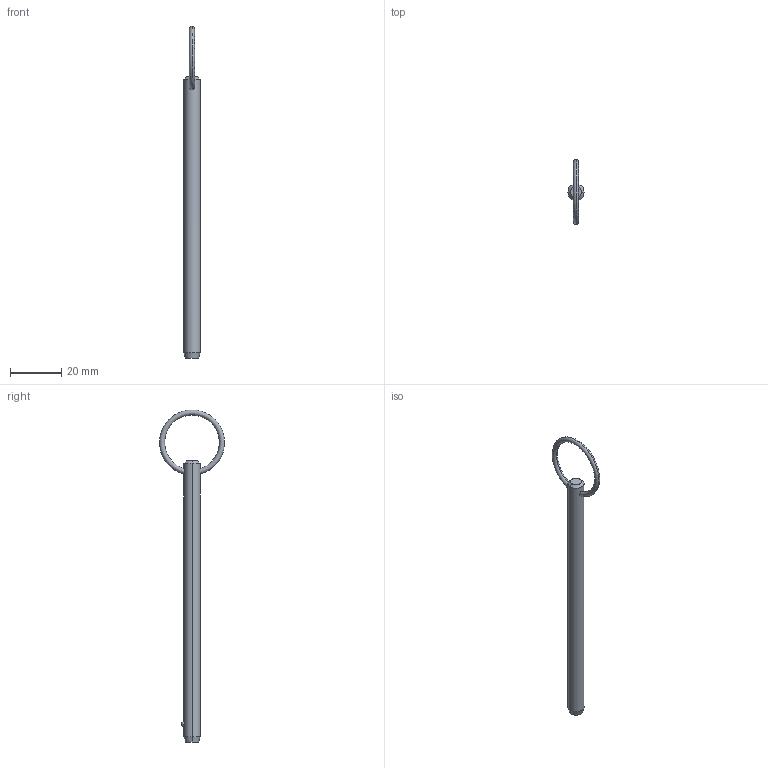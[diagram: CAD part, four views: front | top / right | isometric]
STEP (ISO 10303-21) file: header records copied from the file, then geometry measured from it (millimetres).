
FILE_DESCRIPTION (( 'STEP AP203' ), '1' );
FILE_NAME ('P1250.025-380.step', '2019-07-29T19:46:21', ( '' ), ( '' ), 'SwSTEP 2.0', 'SolidWorks 2017', '' );
FILE_SCHEMA (( 'CONFIG_CONTROL_DESIGN' ));
Length unit declared in the file: millimetre
Products named in the file (1): P1250.025-380
Bounding box: 6.35 x 25.38 x 129.82 mm (x, y, z)
Volume: 3677.3 mm3; surface area: 2651.8 mm2
Topology: 1 solids, 1 shells, 12 faces, 28 edges, 17 vertices
Faces by surface type: cone 4, torus 2, sphere 2, cylinder 2, plane 2
Entity records: 481 total; most frequent: CARTESIAN_POINT 148, DIRECTION 56, ORIENTED_EDGE 48, AXIS2_PLACEMENT_3D 25, EDGE_CURVE 24, EDGE_LOOP 15, VERTEX_POINT 15, CIRCLE 12
